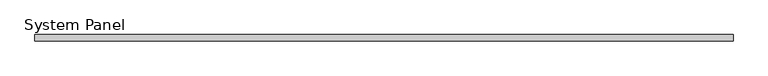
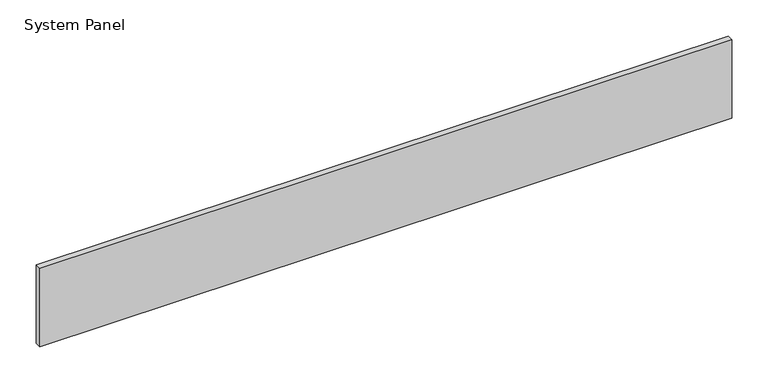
"""IFC4 building model written with IfcOpenShell, lengths in millimetres: plate geometry, System Panel : VACÍO."""

import ifcopenshell
import ifcopenshell.guid

model = None  # the IFC model being written
_history = None  # IfcOwnerHistory: only IFC2X3 demands one
_inside = {}  # id of a spatial element -> (the spatial element, [elements in it])
_under = {}  # id of a project, library or spatial element -> (it, [spatial elements below it])
_declared = {}  # id of a project -> (the project, [libraries it declares])
_typed = {}  # id of a type object -> (the type object, [elements of that type])
_made_of = {}  # id of a material, layer set ... -> (it, [elements and type objects made of it])


def new_model(schema):
    """Start an empty IFC model of exactly this schema.

    Asked for "IFC4X3", IfcOpenShell would pick the latest addendum, in which some entities
    have other attributes; the version numbers below select the first issue.
    IFC2X3 requires an IfcOwnerHistory on every rooted entity: one is made here for all.
    """
    global model, _history
    if schema == "IFC4X3":
        model = ifcopenshell.file(schema_version=(4, 3, 0, 0))
    else:
        model = ifcopenshell.file(schema=schema)
    _inside.clear()
    _under.clear()
    _declared.clear()
    _typed.clear()
    _made_of.clear()
    _history = None
    if model.schema == "IFC2X3":
        org = make("IfcOrganization", Name="unknown")
        user = make(
            "IfcPersonAndOrganization",
            ThePerson=make("IfcPerson", FamilyName="unknown"),
            TheOrganization=org,
        )
        app = make(
            "IfcApplication",
            ApplicationDeveloper=org,
            Version="unknown",
            ApplicationFullName="unknown",
            ApplicationIdentifier="unknown",
        )
        _history = make(
            "IfcOwnerHistory",
            OwningUser=user,
            OwningApplication=app,
            ChangeAction="ADDED",
            CreationDate=0,
        )
    return model


def make(cls, **values):
    """One entity of the class cls with the attributes given. An attribute that is None is left unset."""
    return model.create_entity(
        cls, **{name: value for name, value in values.items() if value is not None}
    )


def rooted(cls, **values):
    """An entity with a GlobalId (a new one), such as an element, a storey or a relation."""
    return make(cls, GlobalId=ifcopenshell.guid.new(), OwnerHistory=_history, **values)


def si_unit(unit_type, name, prefix=None):
    """IfcSIUnit, for example si_unit("LENGTHUNIT", "METRE", prefix="MILLI")."""
    return make("IfcSIUnit", UnitType=unit_type, Prefix=prefix, Name=name)


def assignment(units):
    """IfcUnitAssignment: the units of a project."""
    return None if units is None else make("IfcUnitAssignment", Units=units)


def point(xyz):
    """IfcCartesianPoint."""
    return None if xyz is None else make("IfcCartesianPoint", Coordinates=xyz)


def direction(xyz):
    """IfcDirection."""
    return None if xyz is None else make("IfcDirection", DirectionRatios=xyz)


def frame(location, z_axis=None, x_axis=None):
    """IfcAxis2Placement3D, a coordinate frame: its origin and axes. An axis left out is left unset."""
    return make(
        "IfcAxis2Placement3D",
        Location=point(location),
        Axis=direction(z_axis),
        RefDirection=direction(x_axis),
    )


def origin():
    """The frame at (0, 0, 0) with its axes left unset."""
    return frame((0.0, 0.0, 0.0))


def origin_with_axes():
    """The frame at (0, 0, 0) with the z axis (0, 0, 1) and the x axis (1, 0, 0) written out."""
    return frame((0.0, 0.0, 0.0), z_axis=(0.0, 0.0, 1.0), x_axis=(1.0, 0.0, 0.0))


def place(relative_to, where):
    """IfcLocalPlacement: puts the frame where relative to a parent placement (None: the world)."""
    return make(
        "IfcLocalPlacement", PlacementRelTo=relative_to, RelativePlacement=where
    )


def context(
    kind, dimensions, precision=None, world=None, true_north=None, identifier=None
):
    """IfcGeometricRepresentationContext, for example the 3D "Model" context."""
    return make(
        "IfcGeometricRepresentationContext",
        ContextIdentifier=identifier,
        ContextType=kind,
        CoordinateSpaceDimension=dimensions,
        Precision=precision,
        WorldCoordinateSystem=world,
        TrueNorth=true_north,
    )


def project(units=None, contexts=None):
    """IfcProject with its units and contexts."""
    return rooted(
        "IfcProject",
        Name="project",
        RepresentationContexts=contexts,
        UnitsInContext=assignment(units),
    )


def spatial(cls, under=None, at=None, **own):
    """A site, building, storey or space (cls), placed at a placement, below another one or the project."""
    s = rooted(cls, ObjectPlacement=at, **own)
    if under is not None:
        _under.setdefault(under.id(), (under, []))[1].append(s)
    return s


def polyline(points):
    """IfcPolyline through the points."""
    return make("IfcPolyline", Points=[point(p) for p in points])


def outline(outer, holes=None, kind="AREA"):
    """IfcArbitraryClosedProfileDef: a profile drawn as a closed curve; with holes, ...WithVoids."""
    if holes is None:
        return make("IfcArbitraryClosedProfileDef", ProfileType=kind, OuterCurve=outer)
    return make(
        "IfcArbitraryProfileDefWithVoids",
        ProfileType=kind,
        OuterCurve=outer,
        InnerCurves=holes,
    )


def extrude(swept, where, along, depth):
    """IfcExtrudedAreaSolid: the profile swept, set in the frame where, extruded along a direction by depth."""
    return make(
        "IfcExtrudedAreaSolid",
        SweptArea=swept,
        Position=where,
        ExtrudedDirection=direction(along),
        Depth=depth,
    )


def shape(context_of_items, identifier, shape_type, items):
    """IfcShapeRepresentation: the items that make up one representation, for example the "Body"."""
    return make(
        "IfcShapeRepresentation",
        ContextOfItems=context_of_items,
        RepresentationIdentifier=identifier,
        RepresentationType=shape_type,
        Items=items,
    )


def source(mapping_origin, context_of_items, identifier, shape_type, items):
    """IfcRepresentationMap: a shape defined once, which mapped items show again and again."""
    return make(
        "IfcRepresentationMap",
        MappingOrigin=mapping_origin,
        MappedRepresentation=shape(context_of_items, identifier, shape_type, items),
    )


def transform(
    local_origin,
    x_axis=None,
    y_axis=None,
    z_axis=None,
    scale=None,
    scale2=None,
    scale3=None,
    uniform=True,
):
    """IfcCartesianTransformationOperator3D, or its non-uniform kind. x_axis, y_axis, z_axis: its Axis1, 2, 3."""
    if uniform:
        return make(
            "IfcCartesianTransformationOperator3D",
            Axis1=direction(x_axis),
            Axis2=direction(y_axis),
            LocalOrigin=point(local_origin),
            Scale=scale,
            Axis3=direction(z_axis),
        )
    return make(
        "IfcCartesianTransformationOperator3DnonUniform",
        Axis1=direction(x_axis),
        Axis2=direction(y_axis),
        LocalOrigin=point(local_origin),
        Scale=scale,
        Axis3=direction(z_axis),
        Scale2=scale2,
        Scale3=scale3,
    )


def mapped(mapping_source, mapping_target):
    """IfcMappedItem: shows the shape of a source again, moved by a transform."""
    return make(
        "IfcMappedItem", MappingSource=mapping_source, MappingTarget=mapping_target
    )


def made_of(thing, what):
    """Note that an element or type object is made of a material, layer set ...; save() writes the relation."""
    if what is not None:
        _made_of.setdefault(what.id(), (what, []))[1].append(thing)
    return thing


def element(
    cls,
    number,
    at=None,
    inside=None,
    cuts=None,
    type_object=None,
    material=None,
    context=None,
    identifier="Body",
    shape_type=None,
    held_by="IfcProductDefinitionShape",
    body=None,
    shapes=None,
    **own,
):
    """One element of the class cls, such as IfcWall. Its Tag is "e" and its number.

    at: its placement. inside: the storey or other place that contains it. cuts: it is an
    opening in that element (IfcRelVoidsElement). A single representation is given by context,
    identifier, shape_type and body (its items); several are given by shapes. held_by: the class
    of the entity that holds the representations. save() writes the other relations.
    """
    e = rooted(cls, Tag="e%d" % number, ObjectPlacement=at, **own)
    if body is not None:
        shapes = [shape(context, identifier, shape_type, body)]
    if shapes is not None:
        e.Representation = make(held_by, Representations=shapes)
    if inside is not None:
        _inside.setdefault(inside.id(), (inside, []))[1].append(e)
    if cuts is not None:
        rooted(
            "IfcRelVoidsElement", RelatingBuildingElement=cuts, RelatedOpeningElement=e
        )
    if type_object is not None:
        _typed.setdefault(type_object.id(), (type_object, []))[1].append(e)
    return made_of(e, material)


def aggregate(whole, parts):
    """IfcRelAggregates: a whole, such as a stair, and the parts it consists of."""
    return rooted("IfcRelAggregates", RelatingObject=whole, RelatedObjects=parts)


def save(model, path):
    """Write the relations noted so far, then the file.

    IfcRelAggregates (storeys below a building ...), IfcRelContainedInSpatialStructure (elements
    in a storey), IfcRelDefinesByType, IfcRelAssociatesMaterial and IfcRelDeclares: one each for
    every whole, place, type object, material and project.
    """
    for whole, parts in _under.values():
        aggregate(whole, parts)
    for where, things in _inside.values():
        rooted(
            "IfcRelContainedInSpatialStructure",
            RelatedElements=things,
            RelatingStructure=where,
        )
    for kind, things in _typed.values():
        rooted("IfcRelDefinesByType", RelatedObjects=things, RelatingType=kind)
    for what, things in _made_of.values():
        rooted("IfcRelAssociatesMaterial", RelatedObjects=things, RelatingMaterial=what)
    for by, libraries in _declared.values():
        rooted("IfcRelDeclares", RelatingContext=by, RelatedDefinitions=libraries)
    model.write(path)


def system_panel_116926c9(model_context):
    return source(origin(), model_context, "Body", "SweptSolid", [
        extrude(outline(polyline([(550.3436275, -5.0), (-550.3436275, -5.0), (-550.3436275, 5.0), (550.3436275, 5.0), (550.3436275, -5.0)])), origin_with_axes(), (0.0, 0.0, 1.0), 131.4545455),
    ])


if __name__ == "__main__":
    model = new_model("IFC4")
    model_context = context("Model", 3, world=origin())
    ifc_project = project(units=[si_unit("LENGTHUNIT", "METRE", prefix="MILLI")], contexts=[model_context])
    site = spatial("IfcSite", under=ifc_project)
    building = spatial("IfcBuilding", under=site)
    placement = place(None, origin())
    system_panel_shape = system_panel_116926c9(model_context)
    element("IfcPlate", 1, ObjectType="System Panel : VACÍO", at=placement, inside=building, context=model_context, shape_type="MappedRepresentation", body=[
        mapped(system_panel_shape, transform((0.0, 0.0, 0.0), x_axis=(1.0, 0.0, 0.0), y_axis=(0.0, 1.0, 0.0), z_axis=(0.0, 0.0, 1.0))),
    ])
    save(model, "model.ifc")
